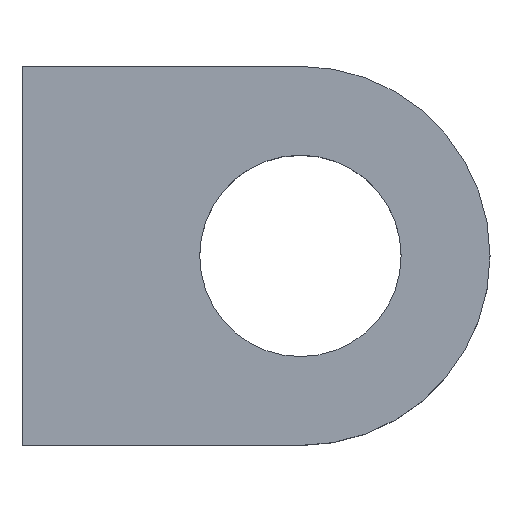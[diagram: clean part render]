
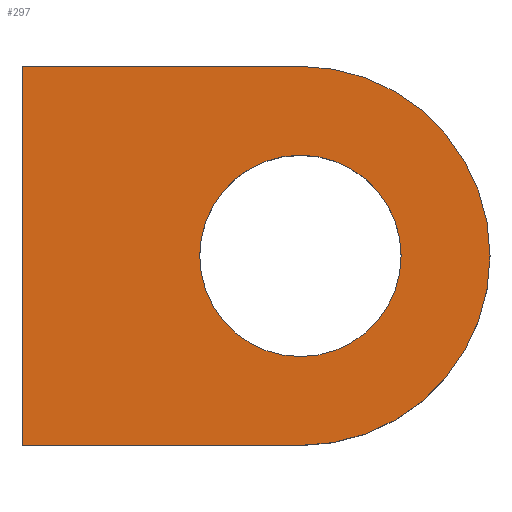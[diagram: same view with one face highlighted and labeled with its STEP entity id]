
A CAD part, top view. The second image highlights one B-rep face of the part: STEP entity #297.
In plain terms, the highlighted planar face has unit normal (0, 0, 1).
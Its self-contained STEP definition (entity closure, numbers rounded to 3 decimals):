
#33 = CYLINDRICAL_SURFACE('',#34,3.2);
#34 = AXIS2_PLACEMENT_3D('',#35,#36,#37);
#35 = CARTESIAN_POINT('',(0.,0.,0.));
#36 = DIRECTION('',(0.,0.,1.));
#37 = DIRECTION('',(1.,0.,-0.));
#58 = VERTEX_POINT('',#59);
#59 = CARTESIAN_POINT('',(0.,3.2,2.4));
#72 = PLANE('',#73);
#73 = AXIS2_PLACEMENT_3D('',#74,#75,#76);
#74 = CARTESIAN_POINT('',(-4.7,3.2,0.));
#75 = DIRECTION('',(-0.,1.,0.));
#76 = DIRECTION('',(0.,0.,1.));
#84 = EDGE_CURVE('',#58,#85,#87,.T.);
#85 = VERTEX_POINT('',#86);
#86 = CARTESIAN_POINT('',(0.,-3.2,2.4));
#87 = SURFACE_CURVE('',#88,(#93,#100),.PCURVE_S1.);
#88 = CIRCLE('',#89,3.2);
#89 = AXIS2_PLACEMENT_3D('',#90,#91,#92);
#90 = CARTESIAN_POINT('',(0.,0.,2.4));
#91 = DIRECTION('',(0.,0.,-1.));
#92 = DIRECTION('',(0.,1.,0.));
#93 = PCURVE('',#33,#94);
#94 = DEFINITIONAL_REPRESENTATION('',(#95),#99);
#95 = LINE('',#96,#97);
#96 = CARTESIAN_POINT('',(7.854,2.4));
#97 = VECTOR('',#98,1.);
#98 = DIRECTION('',(-1.,-0.));
#99 = ( GEOMETRIC_REPRESENTATION_CONTEXT(2) 
PARAMETRIC_REPRESENTATION_CONTEXT() REPRESENTATION_CONTEXT('2D SPACE',''
  ) );
#100 = PCURVE('',#101,#106);
#101 = PLANE('',#102);
#102 = AXIS2_PLACEMENT_3D('',#103,#104,#105);
#103 = CARTESIAN_POINT('',(0.,0.,2.4));
#104 = DIRECTION('',(0.,0.,1.));
#105 = DIRECTION('',(1.,0.,-0.));
#106 = DEFINITIONAL_REPRESENTATION('',(#107),#115);
#107 = ( BOUNDED_CURVE() B_SPLINE_CURVE(2,(#108,#109,#110,#111,#112,#113
,#114),.UNSPECIFIED.,.T.,.F.) B_SPLINE_CURVE_WITH_KNOTS((1,2,2,2,2,1),(
    -2.094,0.,2.094,4.189,6.283,
8.378),.UNSPECIFIED.) CURVE() GEOMETRIC_REPRESENTATION_ITEM() 
RATIONAL_B_SPLINE_CURVE((1.,0.5,1.,0.5,1.,0.5,1.)) REPRESENTATION_ITEM(
  '') );
#108 = CARTESIAN_POINT('',(0.,3.2));
#109 = CARTESIAN_POINT('',(5.543,3.2));
#110 = CARTESIAN_POINT('',(2.771,-1.6));
#111 = CARTESIAN_POINT('',(0.,-6.4));
#112 = CARTESIAN_POINT('',(-2.771,-1.6));
#113 = CARTESIAN_POINT('',(-5.543,3.2));
#114 = CARTESIAN_POINT('',(0.,3.2));
#115 = ( GEOMETRIC_REPRESENTATION_CONTEXT(2) 
PARAMETRIC_REPRESENTATION_CONTEXT() REPRESENTATION_CONTEXT('2D SPACE',''
  ) );
#130 = PLANE('',#131);
#131 = AXIS2_PLACEMENT_3D('',#132,#133,#134);
#132 = CARTESIAN_POINT('',(-4.7,-3.2,0.));
#133 = DIRECTION('',(-0.,1.,0.));
#134 = DIRECTION('',(0.,0.,1.));
#185 = PLANE('',#186);
#186 = AXIS2_PLACEMENT_3D('',#187,#188,#189);
#187 = CARTESIAN_POINT('',(-4.7,-3.2,0.));
#188 = DIRECTION('',(1.,0.,-0.));
#189 = DIRECTION('',(0.,0.,1.));
#237 = CYLINDRICAL_SURFACE('',#238,1.7);
#238 = AXIS2_PLACEMENT_3D('',#239,#240,#241);
#239 = CARTESIAN_POINT('',(0.,0.,-1.));
#240 = DIRECTION('',(0.,0.,1.));
#241 = DIRECTION('',(1.,0.,-0.));
#254 = VERTEX_POINT('',#255);
#255 = CARTESIAN_POINT('',(-4.7,3.2,2.4));
#276 = EDGE_CURVE('',#254,#58,#277,.T.);
#277 = SURFACE_CURVE('',#278,(#282,#289),.PCURVE_S1.);
#278 = LINE('',#279,#280);
#279 = CARTESIAN_POINT('',(-4.7,3.2,2.4));
#280 = VECTOR('',#281,1.);
#281 = DIRECTION('',(1.,0.,-0.));
#282 = PCURVE('',#72,#283);
#283 = DEFINITIONAL_REPRESENTATION('',(#284),#288);
#284 = LINE('',#285,#286);
#285 = CARTESIAN_POINT('',(2.4,0.));
#286 = VECTOR('',#287,1.);
#287 = DIRECTION('',(0.,1.));
#288 = ( GEOMETRIC_REPRESENTATION_CONTEXT(2) 
PARAMETRIC_REPRESENTATION_CONTEXT() REPRESENTATION_CONTEXT('2D SPACE',''
  ) );
#289 = PCURVE('',#101,#290);
#290 = DEFINITIONAL_REPRESENTATION('',(#291),#295);
#291 = LINE('',#292,#293);
#292 = CARTESIAN_POINT('',(-4.7,3.2));
#293 = VECTOR('',#294,1.);
#294 = DIRECTION('',(1.,0.));
#295 = ( GEOMETRIC_REPRESENTATION_CONTEXT(2) 
PARAMETRIC_REPRESENTATION_CONTEXT() REPRESENTATION_CONTEXT('2D SPACE',''
  ) );
#297 = ADVANCED_FACE('',(#298,#346),#101,.T.);
#298 = FACE_BOUND('',#299,.T.);
#299 = EDGE_LOOP('',(#300,#301,#302,#325));
#300 = ORIENTED_EDGE('',*,*,#84,.F.);
#301 = ORIENTED_EDGE('',*,*,#276,.F.);
#302 = ORIENTED_EDGE('',*,*,#303,.F.);
#303 = EDGE_CURVE('',#304,#254,#306,.T.);
#304 = VERTEX_POINT('',#305);
#305 = CARTESIAN_POINT('',(-4.7,-3.2,2.4));
#306 = SURFACE_CURVE('',#307,(#311,#318),.PCURVE_S1.);
#307 = LINE('',#308,#309);
#308 = CARTESIAN_POINT('',(-4.7,-3.2,2.4));
#309 = VECTOR('',#310,1.);
#310 = DIRECTION('',(-0.,1.,0.));
#311 = PCURVE('',#101,#312);
#312 = DEFINITIONAL_REPRESENTATION('',(#313),#317);
#313 = LINE('',#314,#315);
#314 = CARTESIAN_POINT('',(-4.7,-3.2));
#315 = VECTOR('',#316,1.);
#316 = DIRECTION('',(0.,1.));
#317 = ( GEOMETRIC_REPRESENTATION_CONTEXT(2) 
PARAMETRIC_REPRESENTATION_CONTEXT() REPRESENTATION_CONTEXT('2D SPACE',''
  ) );
#318 = PCURVE('',#185,#319);
#319 = DEFINITIONAL_REPRESENTATION('',(#320),#324);
#320 = LINE('',#321,#322);
#321 = CARTESIAN_POINT('',(2.4,0.));
#322 = VECTOR('',#323,1.);
#323 = DIRECTION('',(0.,-1.));
#324 = ( GEOMETRIC_REPRESENTATION_CONTEXT(2) 
PARAMETRIC_REPRESENTATION_CONTEXT() REPRESENTATION_CONTEXT('2D SPACE',''
  ) );
#325 = ORIENTED_EDGE('',*,*,#326,.T.);
#326 = EDGE_CURVE('',#304,#85,#327,.T.);
#327 = SURFACE_CURVE('',#328,(#332,#339),.PCURVE_S1.);
#328 = LINE('',#329,#330);
#329 = CARTESIAN_POINT('',(-4.7,-3.2,2.4));
#330 = VECTOR('',#331,1.);
#331 = DIRECTION('',(1.,0.,-0.));
#332 = PCURVE('',#101,#333);
#333 = DEFINITIONAL_REPRESENTATION('',(#334),#338);
#334 = LINE('',#335,#336);
#335 = CARTESIAN_POINT('',(-4.7,-3.2));
#336 = VECTOR('',#337,1.);
#337 = DIRECTION('',(1.,0.));
#338 = ( GEOMETRIC_REPRESENTATION_CONTEXT(2) 
PARAMETRIC_REPRESENTATION_CONTEXT() REPRESENTATION_CONTEXT('2D SPACE',''
  ) );
#339 = PCURVE('',#130,#340);
#340 = DEFINITIONAL_REPRESENTATION('',(#341),#345);
#341 = LINE('',#342,#343);
#342 = CARTESIAN_POINT('',(2.4,0.));
#343 = VECTOR('',#344,1.);
#344 = DIRECTION('',(0.,1.));
#345 = ( GEOMETRIC_REPRESENTATION_CONTEXT(2) 
PARAMETRIC_REPRESENTATION_CONTEXT() REPRESENTATION_CONTEXT('2D SPACE',''
  ) );
#346 = FACE_BOUND('',#347,.T.);
#347 = EDGE_LOOP('',(#348));
#348 = ORIENTED_EDGE('',*,*,#349,.F.);
#349 = EDGE_CURVE('',#350,#350,#352,.T.);
#350 = VERTEX_POINT('',#351);
#351 = CARTESIAN_POINT('',(1.7,0.,2.4));
#352 = SURFACE_CURVE('',#353,(#358,#365),.PCURVE_S1.);
#353 = CIRCLE('',#354,1.7);
#354 = AXIS2_PLACEMENT_3D('',#355,#356,#357);
#355 = CARTESIAN_POINT('',(0.,0.,2.4));
#356 = DIRECTION('',(0.,0.,1.));
#357 = DIRECTION('',(1.,0.,-0.));
#358 = PCURVE('',#101,#359);
#359 = DEFINITIONAL_REPRESENTATION('',(#360),#364);
#360 = CIRCLE('',#361,1.7);
#361 = AXIS2_PLACEMENT_2D('',#362,#363);
#362 = CARTESIAN_POINT('',(0.,0.));
#363 = DIRECTION('',(1.,0.));
#364 = ( GEOMETRIC_REPRESENTATION_CONTEXT(2) 
PARAMETRIC_REPRESENTATION_CONTEXT() REPRESENTATION_CONTEXT('2D SPACE',''
  ) );
#365 = PCURVE('',#237,#366);
#366 = DEFINITIONAL_REPRESENTATION('',(#367),#371);
#367 = LINE('',#368,#369);
#368 = CARTESIAN_POINT('',(0.,3.4));
#369 = VECTOR('',#370,1.);
#370 = DIRECTION('',(1.,0.));
#371 = ( GEOMETRIC_REPRESENTATION_CONTEXT(2) 
PARAMETRIC_REPRESENTATION_CONTEXT() REPRESENTATION_CONTEXT('2D SPACE',''
  ) );
